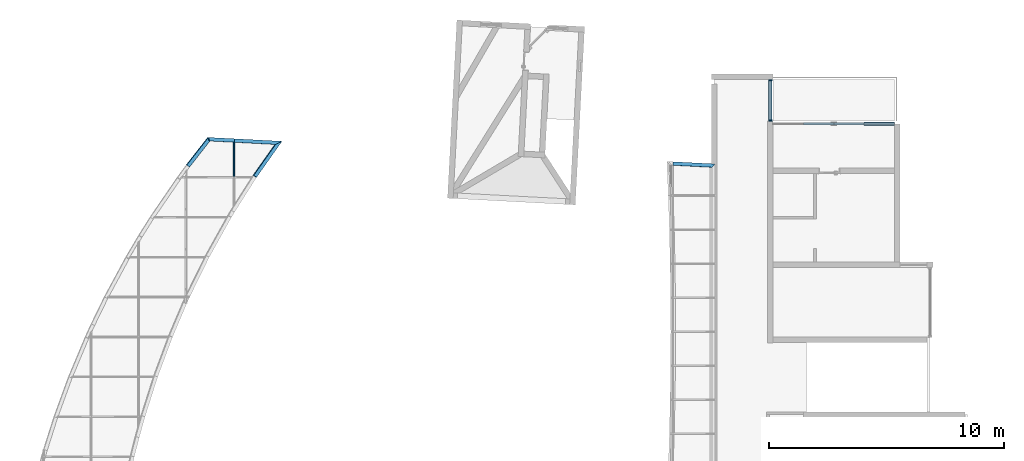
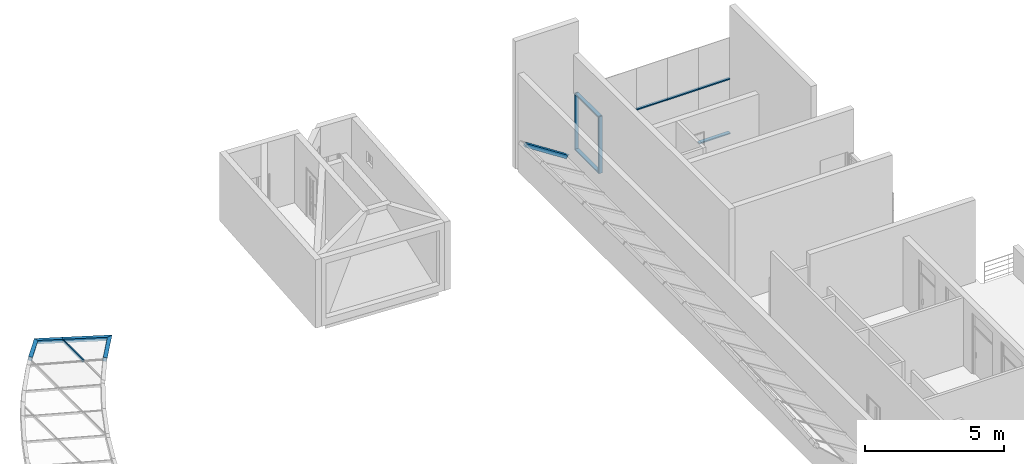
# One storey, part 7 of 33: 14 members, 4 elements without a shape of their own.
"""IFC2X3 building model written with IfcOpenShell, lengths in millimetres."""

from ifc_helpers import new_model, entity, si_unit, converted_unit, derived_unit, direction, frame, frame_2d, origin, origin_2d_with_axis, place, context, subcontext, project, spatial, polyline, rectangle, extrude, clip, halfspace, bounded_halfspace, source, transform, mapped, material, type_object, type_shapes, element, aggregate, save


model = new_model("IFC2X3")

# Units and contexts
model_context = context("Model", 3, precision=0.01, world=origin(), true_north=direction((6.12303176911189e-17, 1.0)))
body_context = subcontext(model_context, "Body", "Model", "MODEL_VIEW")
ifc_project = project(units=[si_unit("LENGTHUNIT", "METRE", prefix="MILLI"), si_unit("AREAUNIT", "SQUARE_METRE"), si_unit("VOLUMEUNIT", "CUBIC_METRE"), converted_unit("PLANEANGLEUNIT", "DEGREE", entity("IfcRatioMeasure", 0.0174532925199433), si_unit("PLANEANGLEUNIT", "RADIAN"), dimensions=[0, 0, 0, 0, 0, 0, 0]), si_unit("MASSUNIT", "GRAM", prefix="KILO"), derived_unit("MASSDENSITYUNIT", [(si_unit("MASSUNIT", "GRAM", prefix="KILO"), 1), (si_unit("LENGTHUNIT", "METRE"), -3)]), si_unit("TIMEUNIT", "SECOND"), si_unit("FREQUENCYUNIT", "HERTZ"), si_unit("THERMODYNAMICTEMPERATUREUNIT", "DEGREE_CELSIUS"), derived_unit("THERMALTRANSMITTANCEUNIT", [(si_unit("MASSUNIT", "GRAM", prefix="KILO"), 1), (si_unit("THERMODYNAMICTEMPERATUREUNIT", "KELVIN"), -1), (si_unit("TIMEUNIT", "SECOND"), -3)]), derived_unit("VOLUMETRICFLOWRATEUNIT", [(si_unit("LENGTHUNIT", "METRE"), 3), (si_unit("TIMEUNIT", "SECOND"), -1)]), si_unit("ELECTRICCURRENTUNIT", "AMPERE"), si_unit("ELECTRICVOLTAGEUNIT", "VOLT"), si_unit("POWERUNIT", "WATT"), si_unit("FORCEUNIT", "NEWTON", prefix="KILO"), si_unit("ILLUMINANCEUNIT", "LUX"), si_unit("LUMINOUSFLUXUNIT", "LUMEN"), si_unit("LUMINOUSINTENSITYUNIT", "CANDELA"), derived_unit("USERDEFINED", [(si_unit("MASSUNIT", "GRAM", prefix="KILO"), -1), (si_unit("LENGTHUNIT", "METRE"), -2), (si_unit("TIMEUNIT", "SECOND"), 3), (si_unit("LUMINOUSFLUXUNIT", "LUMEN"), 1)]), derived_unit("LINEARVELOCITYUNIT", [(si_unit("LENGTHUNIT", "METRE"), 1), (si_unit("TIMEUNIT", "SECOND"), -1)]), si_unit("PRESSUREUNIT", "PASCAL"), derived_unit("USERDEFINED", [(si_unit("LENGTHUNIT", "METRE"), -2), (si_unit("MASSUNIT", "GRAM", prefix="KILO"), 1), (si_unit("TIMEUNIT", "SECOND"), -2)])], contexts=[model_context])

# Site, building, storey
site_placement = place(None, origin())
site = spatial("IfcSite", under=ifc_project, at=site_placement, Name="表面", CompositionType="ELEMENT")
building_placement = place(site_placement, origin())
building = spatial("IfcBuilding", under=site, at=building_placement, CompositionType="ELEMENT")
storey_placement = place(building_placement, frame((0.0, 0.0, 6000.0)))
storey = spatial("IfcBuildingStorey", under=building, at=storey_placement, Name="3F", CompositionType="ELEMENT", Elevation=6000.00000000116)

# Curtain wall, members
curtain_wall_type_1 = type_object("IfcCurtainWallType", Name="幕墙系统:1700 x 2100mm", PredefinedType="NOTDEFINED")
curtain_wall_1_placement = place(storey_placement, frame((0.0, 0.0, -6000.0)))
curtain_wall_1 = element("IfcCurtainWall", 1, at=curtain_wall_1_placement, inside=storey, type_object=curtain_wall_type_1, Name="幕墙系统:1700 x 2100mm", ObjectType="幕墙系统:1700 x 2100mm")
ifc_material_1 = material(Name="木质 - 木材")
member_type_1 = type_object("IfcMemberType", Name="200 x 150mm", PredefinedType="MEMBER")
shared_shape_1 = source(origin(), body_context, "Body", "Clipping", [
    clip(clip(extrude(rectangle(XDim=150.0, YDim=150.0, at=frame_2d((0.0, -3.5527136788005e-14), x_axis=(1.0, 0.0))), frame((-75.0, 0.0, -1513.48740462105), z_axis=(0.0, 0.0, 1.0), x_axis=(0.0, -1.0, 0.0)), (0.0, 0.0, 1.0), 1513.48740462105), halfspace(frame((0.0, -304.8, -1513.48740462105), z_axis=(-0.0143069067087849, 0.0, -0.999897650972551), x_axis=(-0.999897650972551, 0.0, 0.0143069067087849)), False)), halfspace(frame((0.0, -304.8, 0.0), z_axis=(-0.453390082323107, 0.0, 0.891312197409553), x_axis=(-0.891312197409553, 0.0, -0.453390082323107)), False)),
])
type_shapes(member_type_1, [shared_shape_1])
member_1_placement = place(storey_placement, frame((-35991.0378195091, 3105.62731307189, 1479.5962956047), z_axis=(0.607551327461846, 0.777418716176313, -0.162792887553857), x_axis=(-0.750928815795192, 0.628983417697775, 0.20121076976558)))
member_1 = element("IfcMember", 2, at=member_1_placement, type_object=member_type_1, material=ifc_material_1, Name="矩形竖梃:200 x 150mm", ObjectType="200 x 150mm", context=body_context, shape_type="MappedRepresentation", body=[
    mapped(shared_shape_1, transform((0.0, 0.0, 0.0), scale=1.0)),
])
member_type_2 = type_object("IfcMemberType", Name="200 x 150mm", PredefinedType="MEMBER")
shared_shape_2 = source(origin(), body_context, "Body", "Clipping", [
    clip(extrude(rectangle(XDim=150.0, YDim=150.0, at=frame_2d((-4.2632564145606e-14, 0.0), x_axis=(1.0, 0.0))), frame((-75.0, 0.0, -2102.68899755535), z_axis=(0.0, 0.0, 1.0), x_axis=(0.0, -1.0, 0.0)), (0.0, 0.0, 1.0), 2102.68899755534), halfspace(frame((0.0, -304.8, 0.0), z_axis=(-0.879971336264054, 0.0, 0.47502678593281), x_axis=(-0.47502678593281, 0.0, -0.879971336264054)), False)),
])
type_shapes(member_type_2, [shared_shape_2])
member_2_placement = place(storey_placement, frame((-32853.6706308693, 2941.20486591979, 638.941291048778), z_axis=(0.964690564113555, -0.0505572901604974, -0.25848805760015), x_axis=(0.0488345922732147, 0.998721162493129, -0.0130851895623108)))
member_2 = element("IfcMember", 3, at=member_2_placement, type_object=member_type_2, material=ifc_material_1, Name="矩形竖梃:200 x 150mm", ObjectType="200 x 150mm", context=body_context, shape_type="MappedRepresentation", body=[
    mapped(shared_shape_2, transform((0.0, 0.0, 0.0), scale=1.0)),
])
member_type_3 = type_object("IfcMemberType", Name="200 x 150mm", PredefinedType="MEMBER")
shared_shape_3 = source(origin(), body_context, "Body", "Clipping", [
    clip(clip(extrude(rectangle(XDim=150.0, YDim=150.0, at=frame_2d((-4.2632564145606e-14, -9.9475983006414e-14), x_axis=(1.0, 0.0))), frame((-75.0, 0.0, -1902.32712826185), z_axis=(0.0, 0.0, 1.0), x_axis=(0.0, -1.0, 0.0)), (0.0, 0.0, 1.0), 1906.1131347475), halfspace(frame((0.0, -304.800000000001, -1902.32712826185), z_axis=(-0.879971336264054, 0.0, -0.47502678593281), x_axis=(-0.47502678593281, 0.0, 0.879971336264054)), False)), halfspace(frame((0.0, 304.8, 0.0), z_axis=(0.0252320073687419, 0.0, 0.999681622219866), x_axis=(0.999681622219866, 0.0, -0.0252320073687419)), False)),
])
type_shapes(member_type_3, [shared_shape_3])
member_3_placement = place(storey_placement, frame((-33938.2853743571, 1405.62731307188, 929.562935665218), z_axis=(-0.570151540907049, -0.80721003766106, 0.152771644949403), x_axis=(0.77970502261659, -0.590264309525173, -0.208921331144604)))
member_3 = element("IfcMember", 4, at=member_3_placement, type_object=member_type_3, material=ifc_material_1, Name="矩形竖梃:200 x 150mm", ObjectType="200 x 150mm", context=body_context, shape_type="MappedRepresentation", body=[
    mapped(shared_shape_3, transform((0.0, 0.0, 0.0), scale=1.0)),
])
member_type_4 = type_object("IfcMemberType", Name="200 x 150mm", PredefinedType="MEMBER")
shared_shape_4 = source(origin(), body_context, "Body", "Clipping", [
    clip(extrude(rectangle(XDim=150.0, YDim=150.0, at=frame_2d((3.5527136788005e-14, 0.0), x_axis=(1.0, 0.0))), frame((-75.0, 0.0, -1149.51155809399), z_axis=(0.0, 0.0, 1.0), x_axis=(0.0, -1.0, 0.0)), (0.0, 0.0, 1.0), 1149.51155809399), halfspace(frame((0.0, -304.8, -1149.51155809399), z_axis=(-0.453390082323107, 0.0, -0.891312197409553), x_axis=(-0.891312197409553, 0.0, 0.453390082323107)), False)),
])
type_shapes(member_type_4, [shared_shape_4])
member_4_placement = place(storey_placement, frame((-34882.1148660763, 3047.51112368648, 1182.46128576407), z_axis=(0.964690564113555, -0.0505572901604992, -0.258488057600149), x_axis=(0.0488345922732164, 0.998721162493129, -0.0130851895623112)))
member_4 = element("IfcMember", 5, at=member_4_placement, type_object=member_type_4, material=ifc_material_1, Name="矩形竖梃:200 x 150mm", ObjectType="200 x 150mm", context=body_context, shape_type="MappedRepresentation", body=[
    mapped(shared_shape_4, transform((0.0, 0.0, 0.0), scale=1.0)),
])
ifc_material_2 = material(Name="金属 - 铝")
member_type_5 = type_object("IfcMemberType", Name="50 x 100mm", PredefinedType="MEMBER")
shared_shape_5 = source(origin(), body_context, "Body", "Clipping", [
    clip(clip(extrude(rectangle(XDim=100.0, YDim=50.0, at=origin_2d_with_axis()), frame((0.0, 0.0, -1616.88381061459), z_axis=(0.0, 0.0, 1.0), x_axis=(0.0, -1.0, 0.0)), (0.0, 0.0, 1.0), 1467.95729004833), bounded_halfspace(frame((-2092.41640647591, 75.0, -256.11443214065), z_axis=(-0.0505572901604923, 0.0, 0.998721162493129), x_axis=(0.998721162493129, 0.0, 0.0505572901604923)), False, frame((0.0, 0.0, -1616.88381061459), z_axis=(0.0, 0.0, 1.0), x_axis=(0.0, -1.0, 0.0)), polyline([(-50.0, 7.58359352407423), (-50.0, -25.0), (50.0, -25.0), (50.0, 7.58359352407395), (-50.0, 7.58359352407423)]))), bounded_halfspace(frame((7.58359352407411, 75.0, -149.808174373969), z_axis=(-0.0505572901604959, 0.0, 0.998721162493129), x_axis=(0.998721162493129, 0.0, 0.0505572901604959)), False, frame((0.0, 0.0, -1616.88381061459), z_axis=(0.0, 0.0, 1.0), x_axis=(0.0, -1.0, 0.0)), polyline([(-50.0, 25.0), (-50.0, 7.58359352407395), (50.0, 7.58359352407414), (50.0, 25.0), (-50.0, 25.0)]))),
])
type_shapes(member_type_5, [shared_shape_5])
member_5_placement = place(storey_placement, frame((-34882.1148660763, 3047.51112368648, 1182.46128576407), z_axis=(0.0, 1.0, 0.0), x_axis=(-0.965925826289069, 0.0, 0.258819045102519)))
member_5 = element("IfcMember", 6, at=member_5_placement, type_object=member_type_5, material=ifc_material_2, Name="矩形竖梃:50 x 100mm", ObjectType="50 x 100mm", context=body_context, shape_type="MappedRepresentation", body=[
    mapped(shared_shape_5, transform((0.0, 0.0, 0.0), scale=1.0)),
])
aggregate(curtain_wall_1, [member_1, member_2, member_3, member_4, member_5])

curtain_wall_type_2 = type_object("IfcCurtainWallType", Name="幕墙:幕墙 2", PredefinedType="NOTDEFINED")
curtain_wall_2_placement = place(storey_placement, frame((0.0, 0.0, -6000.0)))
curtain_wall_2 = element("IfcCurtainWall", 7, at=curtain_wall_2_placement, inside=storey, type_object=curtain_wall_type_2, Name="幕墙:幕墙 2", ObjectType="幕墙:幕墙 2")
member_type_6 = type_object("IfcMemberType", Name="50 x 150mm", PredefinedType="MEMBER")
shared_shape_6 = source(origin(), body_context, "Body", "SweptSolid", [
    extrude(rectangle(XDim=150.0, YDim=50.0, at=origin_2d_with_axis()), frame((-25.0, 0.0, -1660.0), z_axis=(0.0, 0.0, 1.0), x_axis=(0.0, -1.0, 0.0)), (0.0, 0.0, 1.0), 1660.0),
])
type_shapes(member_type_6, [shared_shape_6])
member_6_placement = place(storey_placement, frame((-12030.2499126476, 3853.13157334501, 2500.0), z_axis=(0.0, -1.0, 0.0), x_axis=(0.0, 0.0, 1.0)))
member_6 = element("IfcMember", 8, at=member_6_placement, type_object=member_type_6, material=ifc_material_2, Name="矩形竖梃:50 x 150mm", ObjectType="50 x 150mm", context=body_context, shape_type="MappedRepresentation", body=[
    mapped(shared_shape_6, transform((0.0, 0.0, 0.0), scale=1.0)),
])
member_type_7 = type_object("IfcMemberType", Name="50 x 150mm", PredefinedType="MEMBER")
shared_shape_7 = source(origin(), body_context, "Body", "SweptSolid", [
    extrude(rectangle(XDim=150.0, YDim=50.0, at=origin_2d_with_axis()), frame((-25.0, 0.0, -2500.0), z_axis=(0.0, 0.0, 1.0), x_axis=(0.0, -1.0, 0.0)), (0.0, 0.0, 1.0), 2500.0),
])
type_shapes(member_type_7, [shared_shape_7])
member_7_placement = place(storey_placement, frame((-12030.2499126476, 3803.13157334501, 0.0), z_axis=(0.0, 0.0, -1.0), x_axis=(0.0, -1.0, 0.0)))
member_7 = element("IfcMember", 9, at=member_7_placement, type_object=member_type_7, material=ifc_material_2, Name="矩形竖梃:50 x 150mm", ObjectType="50 x 150mm", context=body_context, shape_type="MappedRepresentation", body=[
    mapped(shared_shape_7, transform((0.0, 0.0, 0.0), scale=1.0)),
])

curtain_wall_type_3 = type_object("IfcCurtainWallType", Name="幕墙:店面", PredefinedType="NOTDEFINED")
curtain_wall_3_placement = place(storey_placement, frame((0.0, 0.0, -6000.0)))
curtain_wall_3 = element("IfcCurtainWall", 10, at=curtain_wall_3_placement, inside=storey, type_object=curtain_wall_type_3, Name="幕墙:店面", ObjectType="幕墙:店面")
member_type_8 = type_object("IfcMemberType", Name="50 x 150mm", PredefinedType="MEMBER")
shared_shape_8 = source(origin(), body_context, "Body", "SweptSolid", [
    extrude(rectangle(XDim=150.0, YDim=50.0, at=origin_2d_with_axis()), frame((-25.0, 0.0, -1290.0), z_axis=(0.0, 0.0, 1.0), x_axis=(0.0, -1.0, 0.0)), (0.0, 0.0, 1.0), 1290.0),
])
type_shapes(member_type_8, [shared_shape_8])
member_8_placement = place(storey_placement, frame((-8040.24991264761, 3683.131573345, 0.0), z_axis=(-1.0, 0.0, 0.0), x_axis=(0.0, 0.0, -1.0)))
member_8 = element("IfcMember", 11, at=member_8_placement, type_object=member_type_8, material=ifc_material_2, Name="矩形竖梃:50 x 150mm", ObjectType="50 x 150mm", context=body_context, shape_type="MappedRepresentation", body=[
    mapped(shared_shape_8, transform((0.0, 0.0, 0.0), scale=1.0)),
])
member_type_9 = type_object("IfcMemberType", Name="50 x 100mm", PredefinedType="MEMBER")
shared_shape_9 = source(origin(), body_context, "Body", "SweptSolid", [
    extrude(rectangle(XDim=100.0, YDim=50.0, at=origin_2d_with_axis()), frame((0.0, 0.0, -1290.0), z_axis=(0.0, 0.0, 1.0), x_axis=(0.0, -1.0, 0.0)), (0.0, 0.0, 1.0), 1290.00000000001),
])
type_shapes(member_type_9, [shared_shape_9])
member_9_placement = place(storey_placement, frame((-9330.24991264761, 3683.13157334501, 2400.0), z_axis=(1.0, 0.0, 0.0), x_axis=(0.0, 0.0, 1.0)))
member_9 = element("IfcMember", 12, at=member_9_placement, type_object=member_type_9, material=ifc_material_2, Name="矩形竖梃:50 x 100mm", ObjectType="50 x 100mm", context=body_context, shape_type="MappedRepresentation", body=[
    mapped(shared_shape_9, transform((0.0, 0.0, 0.0), scale=1.0)),
])
member_type_10 = type_object("IfcMemberType", Name="50 x 100mm", PredefinedType="MEMBER")
shared_shape_10 = source(origin(), body_context, "Body", "SweptSolid", [
    extrude(rectangle(XDim=100.0, YDim=50.0, at=origin_2d_with_axis()), frame((0.0, 0.0, -1290.0), z_axis=(0.0, 0.0, 1.0), x_axis=(0.0, -1.0, 0.0)), (0.0, 0.0, 1.0), 1290.00000000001),
])
type_shapes(member_type_10, [shared_shape_10])
member_10_placement = place(storey_placement, frame((-8040.24991264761, 3683.131573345, 2400.0), z_axis=(1.0, 0.0, 0.0), x_axis=(0.0, 0.0, 1.0)))
member_10 = element("IfcMember", 13, at=member_10_placement, type_object=member_type_10, material=ifc_material_2, Name="矩形竖梃:50 x 100mm", ObjectType="50 x 100mm", context=body_context, shape_type="MappedRepresentation", body=[
    mapped(shared_shape_10, transform((0.0, 0.0, 0.0), scale=1.0)),
])
member_type_11 = type_object("IfcMemberType", Name="50 x 100mm", PredefinedType="MEMBER")
shared_shape_11 = source(origin(), body_context, "Body", "SweptSolid", [
    extrude(rectangle(XDim=100.0, YDim=50.0, at=origin_2d_with_axis()), frame((0.0, 0.0, -1290.0), z_axis=(0.0, 0.0, 1.0), x_axis=(0.0, -1.0, 0.0)), (0.0, 0.0, 1.0), 1290.0),
])
type_shapes(member_type_11, [shared_shape_11])
member_11_placement = place(storey_placement, frame((-6750.2499126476, 3683.131573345, 2400.0), z_axis=(1.0, 0.0, 0.0), x_axis=(0.0, 0.0, 1.0)))
member_11 = element("IfcMember", 14, at=member_11_placement, type_object=member_type_11, material=ifc_material_2, Name="矩形竖梃:50 x 100mm", ObjectType="50 x 100mm", context=body_context, shape_type="MappedRepresentation", body=[
    mapped(shared_shape_11, transform((0.0, 0.0, 0.0), scale=1.0)),
])
aggregate(curtain_wall_3, [member_8, member_9, member_10, member_11])

# Member
member_type_12 = type_object("IfcMemberType", Name="50 x 150mm", PredefinedType="MEMBER")
shared_shape_12 = source(origin(), body_context, "Body", "SweptSolid", [
    extrude(rectangle(XDim=150.0, YDim=50.0, at=origin_2d_with_axis()), frame((-25.0, 0.0, -1660.0), z_axis=(0.0, 0.0, 1.0), x_axis=(0.0, -1.0, 0.0)), (0.0, 0.0, 1.0), 1660.0),
])
type_shapes(member_type_12, [shared_shape_12])
member_12_placement = place(storey_placement, frame((-12030.2499126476, 5513.13157334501, 0.0), z_axis=(0.0, 1.0, 0.0), x_axis=(0.0, 0.0, -1.0)))
member_12 = element("IfcMember", 15, at=member_12_placement, type_object=member_type_12, material=ifc_material_2, Name="矩形竖梃:50 x 150mm", ObjectType="50 x 150mm", context=body_context, shape_type="MappedRepresentation", body=[
    mapped(shared_shape_12, transform((0.0, 0.0, 0.0), scale=1.0)),
])

member_type_13 = type_object("IfcMemberType", Name="50 x 150mm", PredefinedType="MEMBER")
shared_shape_13 = source(origin(), body_context, "Body", "SweptSolid", [
    extrude(rectangle(XDim=150.0, YDim=50.0, at=origin_2d_with_axis()), frame((-25.0, 0.0, -2500.0), z_axis=(0.0, 0.0, 1.0), x_axis=(0.0, -1.0, 0.0)), (0.0, 0.0, 1.0), 2500.0),
])
type_shapes(member_type_13, [shared_shape_13])
member_13_placement = place(storey_placement, frame((-12030.2499126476, 5563.13157334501, 2500.0), z_axis=(0.0, 0.0, 1.0), x_axis=(0.0, 1.0, 0.0)))
member_13 = element("IfcMember", 16, at=member_13_placement, type_object=member_type_13, material=ifc_material_2, Name="矩形竖梃:50 x 150mm", ObjectType="50 x 150mm", context=body_context, shape_type="MappedRepresentation", body=[
    mapped(shared_shape_13, transform((0.0, 0.0, 0.0), scale=1.0)),
])

aggregate(curtain_wall_2, [member_6, member_12, member_7, member_13])

# Curtain wall, member
curtain_wall_type_4 = type_object("IfcCurtainWallType", Name="幕墙系统:1450 x 2100mm", PredefinedType="NOTDEFINED")
curtain_wall_4_placement = place(storey_placement, frame((0.0, 0.0, -6000.0)))
curtain_wall_4 = element("IfcCurtainWall", 17, at=curtain_wall_4_placement, inside=storey, type_object=curtain_wall_type_4, Name="幕墙系统:1450 x 2100mm", ObjectType="幕墙系统:1450 x 2100mm")
member_type_14 = type_object("IfcMemberType", Name="200 x 150mm", PredefinedType="MEMBER")
shared_shape_14 = source(origin(), body_context, "Body", "Clipping", [
    clip(extrude(rectangle(XDim=150.0, YDim=150.0, at=frame_2d((0.0, -1.4210854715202e-14), x_axis=(1.0, 0.0))), frame((-75.0, 0.0, -2102.07303900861), z_axis=(0.0, 0.0, 1.0), x_axis=(0.0, -1.0, 0.0)), (0.0, 0.0, 1.0), 2102.07303900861), halfspace(frame((0.0, -304.8, 0.0), z_axis=(-0.691230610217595, 0.0, 0.722634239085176), x_axis=(-0.722634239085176, 0.0, -0.691230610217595)), False)),
])
type_shapes(member_type_14, [shared_shape_14])
member_14_placement = place(storey_placement, frame((-14430.2499126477, 1975.67429928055, 2713.21784202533), z_axis=(0.847211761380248, -0.0444004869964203, -0.52939666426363), x_axis=(0.0376537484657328, 0.999013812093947, -0.0235286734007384)))
member_14 = element("IfcMember", 18, at=member_14_placement, type_object=member_type_14, material=ifc_material_1, Name="矩形竖梃:200 x 150mm", ObjectType="200 x 150mm", context=body_context, shape_type="MappedRepresentation", body=[
    mapped(shared_shape_14, transform((0.0, 0.0, 0.0), scale=1.0)),
])
aggregate(curtain_wall_4, [member_14])

save(model, "model.ifc")
